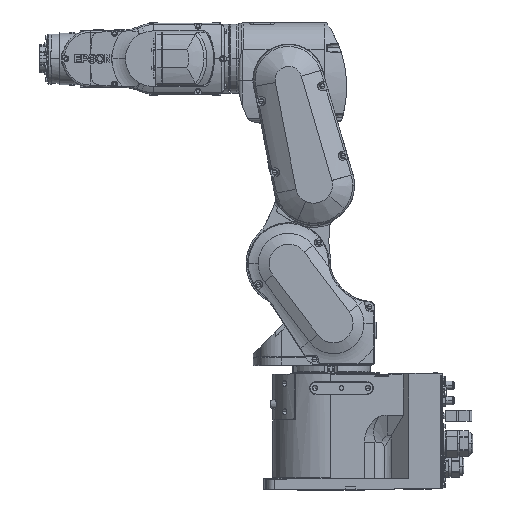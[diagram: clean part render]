
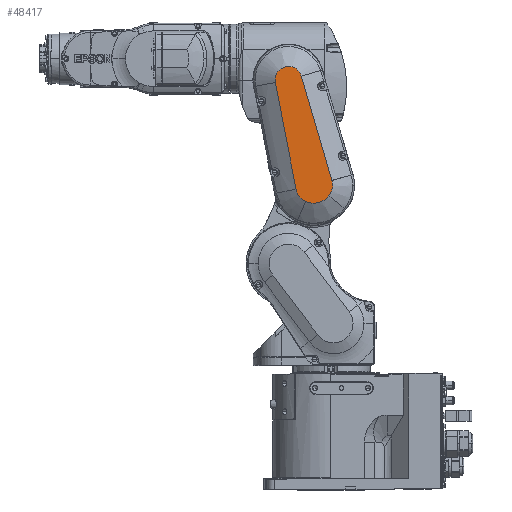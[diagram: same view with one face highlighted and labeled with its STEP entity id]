
A CAD part, top view. The second image highlights one B-rep face of the part: STEP entity #48417.
In plain terms, the highlighted planar face has unit normal (0, 0, 1).
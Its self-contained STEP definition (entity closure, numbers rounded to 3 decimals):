
#4043 = CARTESIAN_POINT ( 'NONE',  ( 35.69, 113.04, 110. ) ) ;
#16874 = VERTEX_POINT ( 'NONE', #28569 ) ;
#20011 = LINE ( 'NONE', #178190, #172749 ) ;
#26625 = ORIENTED_EDGE ( 'NONE', *, *, #101489, .T. ) ;
#27173 = DIRECTION ( 'NONE',  ( -0.982, -0.191, 0. ) ) ;
#27635 = CARTESIAN_POINT ( 'NONE',  ( -18.653, 256.374, 110. ) ) ;
#28569 = CARTESIAN_POINT ( 'NONE',  ( 57.085, 95.777, 110. ) ) ;
#37432 = AXIS2_PLACEMENT_3D ( 'NONE', #4043, #117123, #43608 ) ;
#38245 = CIRCLE ( 'NONE', #146695, 23.991 ) ;
#39884 = VERTEX_POINT ( 'NONE', #132695 ) ;
#42562 = ORIENTED_EDGE ( 'NONE', *, *, #70536, .T. ) ;
#43608 = DIRECTION ( 'NONE',  ( -0.407, -0.914, 0. ) ) ;
#44054 = CARTESIAN_POINT ( 'NONE',  ( 18.224, 265.344, 110. ) ) ;
#48200 = VERTEX_POINT ( 'NONE', #101535 ) ;
#48417 = ADVANCED_FACE ( 'NONE', ( #139001 ), #111671, .F. ) ;
#49126 = DIRECTION ( 'NONE',  ( 0.982, 0.191, 0. ) ) ;
#51717 = LINE ( 'NONE', #178976, #169723 ) ;
#57512 = EDGE_LOOP ( 'NONE', ( #26625, #42562, #183828, #85140, #151580, #96206, #107585, #65975, #178367 ) ) ;
#58174 = CARTESIAN_POINT ( 'NONE',  ( 32.632, 216.088, 110. ) ) ;
#59460 = CARTESIAN_POINT ( 'NONE',  ( 34.266, 109.843, 110. ) ) ;
#64324 = AXIS2_PLACEMENT_3D ( 'NONE', #59460, #147088, #131101 ) ;
#65975 = ORIENTED_EDGE ( 'NONE', *, *, #114898, .T. ) ;
#67222 = DIRECTION ( 'NONE',  ( 0.778, -0.628, 0. ) ) ;
#67293 = CIRCLE ( 'NONE', #64324, 23.991 ) ;
#67737 = DIRECTION ( 'NONE',  ( 0.96, 0.281, 0. ) ) ;
#67821 = EDGE_CURVE ( 'NONE', #16874, #179106, #38245, .T. ) ;
#68292 = CARTESIAN_POINT ( 'NONE',  ( 24.508, 87.926, 110. ) ) ;
#70464 = CARTESIAN_POINT ( 'NONE',  ( -18.642, 256.376, 110. ) ) ;
#70507 = DIRECTION ( 'NONE',  ( 0., 0., 1. ) ) ;
#70536 = EDGE_CURVE ( 'NONE', #130958, #39884, #51717, .T. ) ;
#78579 = AXIS2_PLACEMENT_3D ( 'NONE', #183608, #70507, #67737 ) ;
#83269 = CARTESIAN_POINT ( 'NONE',  ( 38.414, 110.842, 110. ) ) ;
#84617 = EDGE_CURVE ( 'NONE', #104006, #120542, #174936, .T. ) ;
#85140 = ORIENTED_EDGE ( 'NONE', *, *, #92073, .T. ) ;
#91530 = CIRCLE ( 'NONE', #37432, 27.491 ) ;
#92073 = EDGE_CURVE ( 'NONE', #111133, #48200, #67293, .T. ) ;
#95186 = DIRECTION ( 'NONE',  ( 0.191, -0.982, 0. ) ) ;
#96206 = ORIENTED_EDGE ( 'NONE', *, *, #67821, .T. ) ;
#99613 = CARTESIAN_POINT ( 'NONE',  ( 61.441, 117.574, 110. ) ) ;
#100664 = CARTESIAN_POINT ( 'NONE',  ( 61.449, 117.576, 110. ) ) ;
#101489 = EDGE_CURVE ( 'NONE', #120542, #130958, #156257, .T. ) ;
#101535 = CARTESIAN_POINT ( 'NONE',  ( 24.508, 87.926, 110. ) ) ;
#103449 = LINE ( 'NONE', #158078, #104124 ) ;
#104006 = VERTEX_POINT ( 'NONE', #160780 ) ;
#104124 = VECTOR ( 'NONE', #131670, 1000. ) ;
#107585 = ORIENTED_EDGE ( 'NONE', *, *, #145943, .T. ) ;
#110603 = DIRECTION ( 'NONE',  ( 0., 0., 1. ) ) ;
#111133 = VERTEX_POINT ( 'NONE', #131071 ) ;
#111671 = PLANE ( 'NONE',  #147939 ) ;
#114898 = EDGE_CURVE ( 'NONE', #174996, #104006, #120661, .T. ) ;
#117123 = DIRECTION ( 'NONE',  ( 0., 0., 1. ) ) ;
#120542 = VERTEX_POINT ( 'NONE', #161623 ) ;
#120661 = B_SPLINE_CURVE_WITH_KNOTS ( 'NONE', 3,
 ( #100664, #158084, #58174, #44054 ),
 .UNSPECIFIED., .F., .F.,
 ( 4, 4 ),
 ( 0., 1. ),
 .UNSPECIFIED. ) ;
#130958 = VERTEX_POINT ( 'NONE', #27635 ) ;
#131071 = CARTESIAN_POINT ( 'NONE',  ( 10.716, 105.265, 110. ) ) ;
#131101 = DIRECTION ( 'NONE',  ( -0.982, -0.191, 0. ) ) ;
#131670 = DIRECTION ( 'NONE',  ( 0.96, 0.281, 0. ) ) ;
#132182 = VECTOR ( 'NONE', #27173, 1000. ) ;
#132695 = CARTESIAN_POINT ( 'NONE',  ( 10.719, 105.265, 110. ) ) ;
#136200 = EDGE_CURVE ( 'NONE', #48200, #16874, #91530, .T. ) ;
#138073 = DIRECTION ( 'NONE',  ( 0., 0., -1. ) ) ;
#139001 = FACE_OUTER_BOUND ( 'NONE', #57512, .T. ) ;
#145121 = EDGE_CURVE ( 'NONE', #111133, #39884, #20011, .T. ) ;
#145943 = EDGE_CURVE ( 'NONE', #179106, #174996, #103449, .T. ) ;
#146695 = AXIS2_PLACEMENT_3D ( 'NONE', #83269, #110603, #67222 ) ;
#147088 = DIRECTION ( 'NONE',  ( 0., 0., 1. ) ) ;
#147939 = AXIS2_PLACEMENT_3D ( 'NONE', #68292, #138073, #155004 ) ;
#151580 = ORIENTED_EDGE ( 'NONE', *, *, #136200, .T. ) ;
#155004 = DIRECTION ( 'NONE',  ( 0., -1., 0. ) ) ;
#156257 = LINE ( 'NONE', #70464, #132182 ) ;
#158078 = CARTESIAN_POINT ( 'NONE',  ( 61.441, 117.574, 110. ) ) ;
#158084 = CARTESIAN_POINT ( 'NONE',  ( 47.041, 166.832, 110. ) ) ;
#158635 = CARTESIAN_POINT ( 'NONE',  ( 61.449, 117.576, 110. ) ) ;
#160780 = CARTESIAN_POINT ( 'NONE',  ( 18.224, 265.344, 110. ) ) ;
#161623 = CARTESIAN_POINT ( 'NONE',  ( -18.642, 256.376, 110. ) ) ;
#169723 = VECTOR ( 'NONE', #95186, 1000. ) ;
#172749 = VECTOR ( 'NONE', #49126, 1000. ) ;
#174936 = CIRCLE ( 'NONE', #78579, 18.991 ) ;
#174996 = VERTEX_POINT ( 'NONE', #158635 ) ;
#178190 = CARTESIAN_POINT ( 'NONE',  ( 10.716, 105.265, 110. ) ) ;
#178367 = ORIENTED_EDGE ( 'NONE', *, *, #84617, .T. ) ;
#178976 = CARTESIAN_POINT ( 'NONE',  ( -18.653, 256.374, 110. ) ) ;
#179106 = VERTEX_POINT ( 'NONE', #99613 ) ;
#183608 = CARTESIAN_POINT ( 'NONE',  ( 0., 260., 110. ) ) ;
#183828 = ORIENTED_EDGE ( 'NONE', *, *, #145121, .F. ) ;
